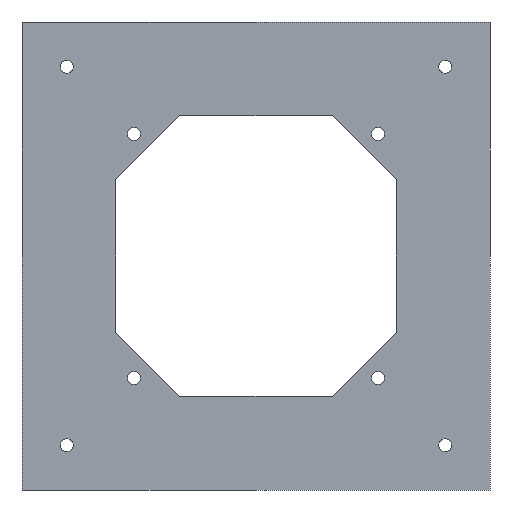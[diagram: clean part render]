
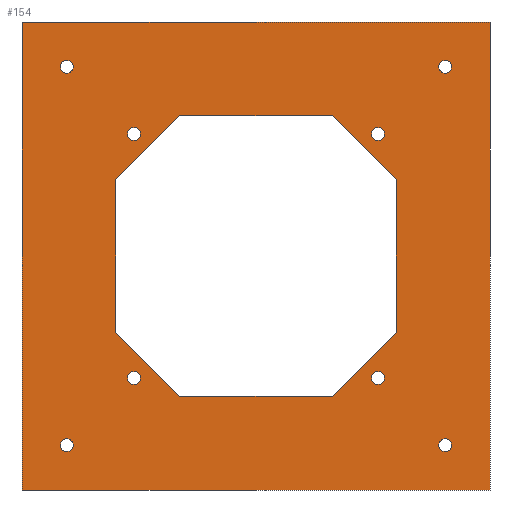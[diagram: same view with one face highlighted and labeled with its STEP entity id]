
A CAD part, front view. The second image highlights one B-rep face of the part: STEP entity #154.
In plain terms, the highlighted planar face has unit normal (0, -1, 0).
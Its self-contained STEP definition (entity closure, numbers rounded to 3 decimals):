
#154=ADVANCED_FACE('',(#331,#332,#333,#334,#335,#336,#337,#338,#339,#340),#341,.F.);
#331=FACE_BOUND('',#546,.T.);
#332=FACE_BOUND('',#547,.T.);
#333=FACE_BOUND('',#548,.T.);
#334=FACE_BOUND('',#549,.T.);
#335=FACE_BOUND('',#550,.T.);
#336=FACE_BOUND('',#551,.T.);
#337=FACE_BOUND('',#552,.T.);
#338=FACE_BOUND('',#553,.T.);
#339=FACE_BOUND('',#554,.T.);
#340=FACE_OUTER_BOUND('',#555,.T.);
#341=PLANE('',#556);
#546=EDGE_LOOP('',(#933,#934));
#547=EDGE_LOOP('',(#935,#936));
#548=EDGE_LOOP('',(#937,#938));
#549=EDGE_LOOP('',(#939,#940));
#550=EDGE_LOOP('',(#941,#942));
#551=EDGE_LOOP('',(#943,#944));
#552=EDGE_LOOP('',(#945,#946));
#553=EDGE_LOOP('',(#947,#948));
#554=EDGE_LOOP('',(#949,#950,#951,#952,#953,#954,#955,#956));
#555=EDGE_LOOP('',(#957,#958,#959,#960));
#556=AXIS2_PLACEMENT_3D('',#961,#962,#963);
#933=ORIENTED_EDGE('',*,*,#1310,.T.);
#934=ORIENTED_EDGE('',*,*,#1279,.T.);
#935=ORIENTED_EDGE('',*,*,#1313,.T.);
#936=ORIENTED_EDGE('',*,*,#1274,.T.);
#937=ORIENTED_EDGE('',*,*,#1316,.T.);
#938=ORIENTED_EDGE('',*,*,#1269,.T.);
#939=ORIENTED_EDGE('',*,*,#1319,.T.);
#940=ORIENTED_EDGE('',*,*,#1264,.T.);
#941=ORIENTED_EDGE('',*,*,#1322,.T.);
#942=ORIENTED_EDGE('',*,*,#1259,.T.);
#943=ORIENTED_EDGE('',*,*,#1324,.T.);
#944=ORIENTED_EDGE('',*,*,#1254,.T.);
#945=ORIENTED_EDGE('',*,*,#1326,.T.);
#946=ORIENTED_EDGE('',*,*,#1249,.T.);
#947=ORIENTED_EDGE('',*,*,#1328,.T.);
#948=ORIENTED_EDGE('',*,*,#1244,.T.);
#949=ORIENTED_EDGE('',*,*,#1339,.T.);
#950=ORIENTED_EDGE('',*,*,#1368,.T.);
#951=ORIENTED_EDGE('',*,*,#1335,.T.);
#952=ORIENTED_EDGE('',*,*,#1369,.T.);
#953=ORIENTED_EDGE('',*,*,#1331,.T.);
#954=ORIENTED_EDGE('',*,*,#1370,.T.);
#955=ORIENTED_EDGE('',*,*,#1343,.T.);
#956=ORIENTED_EDGE('',*,*,#1371,.T.);
#957=ORIENTED_EDGE('',*,*,#1372,.T.);
#958=ORIENTED_EDGE('',*,*,#1364,.F.);
#959=ORIENTED_EDGE('',*,*,#1373,.F.);
#960=ORIENTED_EDGE('',*,*,#1361,.F.);
#961=CARTESIAN_POINT('',(0.0,0.0,0.0));
#962=DIRECTION('',(0.0,1.0,0.0));
#963=DIRECTION('',(0.0,0.0,1.0));
#1244=EDGE_CURVE('',#1486,#1490,#1492,.T.);
#1249=EDGE_CURVE('',#1495,#1499,#1501,.T.);
#1254=EDGE_CURVE('',#1504,#1508,#1510,.T.);
#1259=EDGE_CURVE('',#1513,#1517,#1519,.T.);
#1264=EDGE_CURVE('',#1522,#1526,#1528,.T.);
#1269=EDGE_CURVE('',#1531,#1535,#1537,.T.);
#1274=EDGE_CURVE('',#1540,#1544,#1546,.T.);
#1279=EDGE_CURVE('',#1549,#1553,#1555,.T.);
#1310=EDGE_CURVE('',#1553,#1549,#1606,.T.);
#1313=EDGE_CURVE('',#1544,#1540,#1609,.T.);
#1316=EDGE_CURVE('',#1535,#1531,#1612,.T.);
#1319=EDGE_CURVE('',#1526,#1522,#1615,.T.);
#1322=EDGE_CURVE('',#1517,#1513,#1618,.T.);
#1324=EDGE_CURVE('',#1508,#1504,#1620,.T.);
#1326=EDGE_CURVE('',#1499,#1495,#1622,.T.);
#1328=EDGE_CURVE('',#1490,#1486,#1624,.T.);
#1331=EDGE_CURVE('',#1628,#1626,#1629,.T.);
#1335=EDGE_CURVE('',#1634,#1632,#1635,.T.);
#1339=EDGE_CURVE('',#1640,#1638,#1641,.T.);
#1343=EDGE_CURVE('',#1646,#1644,#1647,.T.);
#1361=EDGE_CURVE('',#1671,#1666,#1673,.T.);
#1364=EDGE_CURVE('',#1676,#1678,#1679,.T.);
#1368=EDGE_CURVE('',#1638,#1634,#1684,.T.);
#1369=EDGE_CURVE('',#1632,#1628,#1685,.T.);
#1370=EDGE_CURVE('',#1626,#1646,#1686,.T.);
#1371=EDGE_CURVE('',#1644,#1640,#1687,.T.);
#1372=EDGE_CURVE('',#1671,#1678,#1688,.T.);
#1373=EDGE_CURVE('',#1666,#1676,#1689,.T.);
#1486=VERTEX_POINT('',#1834);
#1490=VERTEX_POINT('',#1839);
#1492=CIRCLE('',#1842,6.5);
#1495=VERTEX_POINT('',#1845);
#1499=VERTEX_POINT('',#1850);
#1501=CIRCLE('',#1853,6.5);
#1504=VERTEX_POINT('',#1856);
#1508=VERTEX_POINT('',#1861);
#1510=CIRCLE('',#1864,6.5);
#1513=VERTEX_POINT('',#1867);
#1517=VERTEX_POINT('',#1872);
#1519=CIRCLE('',#1875,6.5);
#1522=VERTEX_POINT('',#1878);
#1526=VERTEX_POINT('',#1883);
#1528=CIRCLE('',#1886,6.5);
#1531=VERTEX_POINT('',#1889);
#1535=VERTEX_POINT('',#1894);
#1537=CIRCLE('',#1897,6.5);
#1540=VERTEX_POINT('',#1900);
#1544=VERTEX_POINT('',#1905);
#1546=CIRCLE('',#1908,6.5);
#1549=VERTEX_POINT('',#1911);
#1553=VERTEX_POINT('',#1916);
#1555=CIRCLE('',#1919,6.5);
#1606=CIRCLE('',#1990,6.5);
#1609=CIRCLE('',#1993,6.5);
#1612=CIRCLE('',#1996,6.5);
#1615=CIRCLE('',#1999,6.5);
#1618=CIRCLE('',#2002,6.5);
#1620=CIRCLE('',#2004,6.5);
#1622=CIRCLE('',#2006,6.5);
#1624=CIRCLE('',#2008,6.5);
#1626=VERTEX_POINT('',#2010);
#1628=VERTEX_POINT('',#2013);
#1629=LINE('',#2014,#2015);
#1632=VERTEX_POINT('',#2019);
#1634=VERTEX_POINT('',#2022);
#1635=LINE('',#2023,#2024);
#1638=VERTEX_POINT('',#2028);
#1640=VERTEX_POINT('',#2031);
#1641=LINE('',#2032,#2033);
#1644=VERTEX_POINT('',#2037);
#1646=VERTEX_POINT('',#2040);
#1647=LINE('',#2041,#2042);
#1666=VERTEX_POINT('',#2070);
#1671=VERTEX_POINT('',#2077);
#1673=LINE('',#2080,#2081);
#1676=VERTEX_POINT('',#2084);
#1678=VERTEX_POINT('',#2087);
#1679=LINE('',#2088,#2089);
#1684=LINE('',#2096,#2097);
#1685=LINE('',#2098,#2099);
#1686=LINE('',#2100,#2101);
#1687=LINE('',#2102,#2103);
#1688=LINE('',#2104,#2105);
#1689=LINE('',#2106,#2107);
#1834=CARTESIAN_POINT('',(-116.0,0.0,-122.5));
#1839=CARTESIAN_POINT('',(-129.0,0.0,-122.5));
#1842=AXIS2_PLACEMENT_3D('',#2285,#2286,#2287);
#1845=CARTESIAN_POINT('',(-122.5,0.0,116.0));
#1850=CARTESIAN_POINT('',(-122.5,0.0,129.0));
#1853=AXIS2_PLACEMENT_3D('',#2293,#2294,#2295);
#1856=CARTESIAN_POINT('',(116.0,0.0,122.5));
#1861=CARTESIAN_POINT('',(129.0,0.0,122.5));
#1864=AXIS2_PLACEMENT_3D('',#2301,#2302,#2303);
#1867=CARTESIAN_POINT('',(122.5,0.0,-116.0));
#1872=CARTESIAN_POINT('',(122.5,0.0,-129.0));
#1875=AXIS2_PLACEMENT_3D('',#2309,#2310,#2311);
#1878=CARTESIAN_POINT('',(-183.5,0.0,-190.0));
#1883=CARTESIAN_POINT('',(-196.5,0.0,-190.0));
#1886=AXIS2_PLACEMENT_3D('',#2317,#2318,#2319);
#1889=CARTESIAN_POINT('',(-190.0,0.0,183.5));
#1894=CARTESIAN_POINT('',(-190.0,0.0,196.5));
#1897=AXIS2_PLACEMENT_3D('',#2325,#2326,#2327);
#1900=CARTESIAN_POINT('',(183.5,0.0,190.0));
#1905=CARTESIAN_POINT('',(196.5,0.0,190.0));
#1908=AXIS2_PLACEMENT_3D('',#2333,#2334,#2335);
#1911=CARTESIAN_POINT('',(190.0,0.0,-183.5));
#1916=CARTESIAN_POINT('',(190.0,0.0,-196.5));
#1919=AXIS2_PLACEMENT_3D('',#2341,#2342,#2343);
#1990=AXIS2_PLACEMENT_3D('',#2376,#2377,#2378);
#1993=AXIS2_PLACEMENT_3D('',#2382,#2383,#2384);
#1996=AXIS2_PLACEMENT_3D('',#2388,#2389,#2390);
#1999=AXIS2_PLACEMENT_3D('',#2394,#2395,#2396);
#2002=AXIS2_PLACEMENT_3D('',#2400,#2401,#2402);
#2004=AXIS2_PLACEMENT_3D('',#2403,#2404,#2405);
#2006=AXIS2_PLACEMENT_3D('',#2406,#2407,#2408);
#2008=AXIS2_PLACEMENT_3D('',#2409,#2410,#2411);
#2010=CARTESIAN_POINT('',(76.5,0.0,-141.0));
#2013=CARTESIAN_POINT('',(141.0,0.0,-76.5));
#2014=CARTESIAN_POINT('',(108.75,0.0,-108.75));
#2015=VECTOR('',#2413,1.0);
#2019=CARTESIAN_POINT('',(141.0,0.0,76.5));
#2022=CARTESIAN_POINT('',(76.5,0.0,141.0));
#2023=CARTESIAN_POINT('',(108.75,0.0,108.75));
#2024=VECTOR('',#2416,1.0);
#2028=CARTESIAN_POINT('',(-76.5,0.0,141.0));
#2031=CARTESIAN_POINT('',(-141.0,0.0,76.5));
#2032=CARTESIAN_POINT('',(-108.75,0.0,108.75));
#2033=VECTOR('',#2419,1.0);
#2037=CARTESIAN_POINT('',(-141.0,0.0,-76.5));
#2040=CARTESIAN_POINT('',(-76.5,0.0,-141.0));
#2041=CARTESIAN_POINT('',(-108.75,0.0,-108.75));
#2042=VECTOR('',#2422,1.0);
#2070=CARTESIAN_POINT('',(235.0,0.0,235.0));
#2077=CARTESIAN_POINT('',(-235.0,0.0,235.0));
#2080=CARTESIAN_POINT('',(0.0,0.0,235.0));
#2081=VECTOR('',#2435,1.0);
#2084=CARTESIAN_POINT('',(235.0,0.0,-235.0));
#2087=CARTESIAN_POINT('',(-235.0,0.0,-235.0));
#2088=CARTESIAN_POINT('',(0.0,0.0,-235.0));
#2089=VECTOR('',#2437,1.0);
#2096=CARTESIAN_POINT('',(0.0,0.0,141.0));
#2097=VECTOR('',#2440,1.0);
#2098=CARTESIAN_POINT('',(141.0,0.0,0.0));
#2099=VECTOR('',#2441,1.0);
#2100=CARTESIAN_POINT('',(0.0,0.0,-141.0));
#2101=VECTOR('',#2442,1.0);
#2102=CARTESIAN_POINT('',(-141.0,0.0,0.0));
#2103=VECTOR('',#2443,1.0);
#2104=CARTESIAN_POINT('',(-235.0,0.0,0.0));
#2105=VECTOR('',#2444,1.0);
#2106=CARTESIAN_POINT('',(235.0,0.0,0.0));
#2107=VECTOR('',#2445,1.0);
#2285=CARTESIAN_POINT('',(-122.5,0.0,-122.5));
#2286=DIRECTION('',(-0.0,1.0,0.0));
#2287=DIRECTION('',(1.0,0.0,0.0));
#2293=CARTESIAN_POINT('',(-122.5,0.0,122.5));
#2294=DIRECTION('',(0.0,1.0,0.0));
#2295=DIRECTION('',(0.,0.0,-1.0));
#2301=CARTESIAN_POINT('',(122.5,0.0,122.5));
#2302=DIRECTION('',(0.0,1.0,0.0));
#2303=DIRECTION('',(-1.0,0.0,0.));
#2309=CARTESIAN_POINT('',(122.5,0.0,-122.5));
#2310=DIRECTION('',(0.0,1.0,0.0));
#2311=DIRECTION('',(0.,0.0,1.0));
#2317=CARTESIAN_POINT('',(-190.0,0.0,-190.0));
#2318=DIRECTION('',(-0.0,1.0,0.0));
#2319=DIRECTION('',(1.0,0.0,0.0));
#2325=CARTESIAN_POINT('',(-190.0,0.0,190.0));
#2326=DIRECTION('',(0.0,1.0,0.0));
#2327=DIRECTION('',(0.,0.0,-1.0));
#2333=CARTESIAN_POINT('',(190.0,0.0,190.0));
#2334=DIRECTION('',(0.0,1.0,0.0));
#2335=DIRECTION('',(-1.0,0.0,0.));
#2341=CARTESIAN_POINT('',(190.0,0.0,-190.0));
#2342=DIRECTION('',(0.0,1.0,0.0));
#2343=DIRECTION('',(0.,0.0,1.0));
#2376=CARTESIAN_POINT('',(190.0,0.0,-190.0));
#2377=DIRECTION('',(0.0,1.0,0.0));
#2378=DIRECTION('',(0.,0.0,1.0));
#2382=CARTESIAN_POINT('',(190.0,0.0,190.0));
#2383=DIRECTION('',(0.0,1.0,0.0));
#2384=DIRECTION('',(-1.0,0.0,0.));
#2388=CARTESIAN_POINT('',(-190.0,0.0,190.0));
#2389=DIRECTION('',(0.0,1.0,0.0));
#2390=DIRECTION('',(0.,0.0,-1.0));
#2394=CARTESIAN_POINT('',(-190.0,0.0,-190.0));
#2395=DIRECTION('',(-0.0,1.0,0.0));
#2396=DIRECTION('',(1.0,0.0,0.0));
#2400=CARTESIAN_POINT('',(122.5,0.0,-122.5));
#2401=DIRECTION('',(0.0,1.0,0.0));
#2402=DIRECTION('',(0.,0.0,1.0));
#2403=CARTESIAN_POINT('',(122.5,0.0,122.5));
#2404=DIRECTION('',(0.0,1.0,0.0));
#2405=DIRECTION('',(-1.0,0.0,0.));
#2406=CARTESIAN_POINT('',(-122.5,0.0,122.5));
#2407=DIRECTION('',(0.0,1.0,0.0));
#2408=DIRECTION('',(0.,0.0,-1.0));
#2409=CARTESIAN_POINT('',(-122.5,0.0,-122.5));
#2410=DIRECTION('',(-0.0,1.0,0.0));
#2411=DIRECTION('',(1.0,0.0,0.0));
#2413=DIRECTION('',(-0.707,0.0,-0.707));
#2416=DIRECTION('',(0.707,0.0,-0.707));
#2419=DIRECTION('',(0.707,-0.0,0.707));
#2422=DIRECTION('',(-0.707,0.0,0.707));
#2435=DIRECTION('',(1.0,0.0,0.0));
#2437=DIRECTION('',(-1.0,0.0,0.0));
#2440=DIRECTION('',(1.0,0.0,0.0));
#2441=DIRECTION('',(0.0,0.0,-1.0));
#2442=DIRECTION('',(-1.0,0.0,0.0));
#2443=DIRECTION('',(0.0,0.0,1.0));
#2444=DIRECTION('',(0.0,0.0,-1.0));
#2445=DIRECTION('',(0.0,0.0,-1.0));
